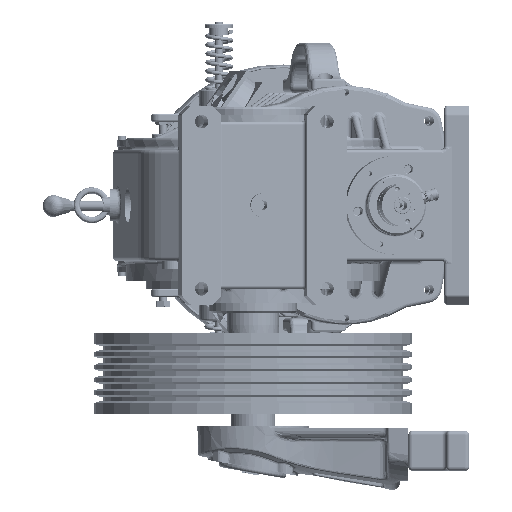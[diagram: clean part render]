
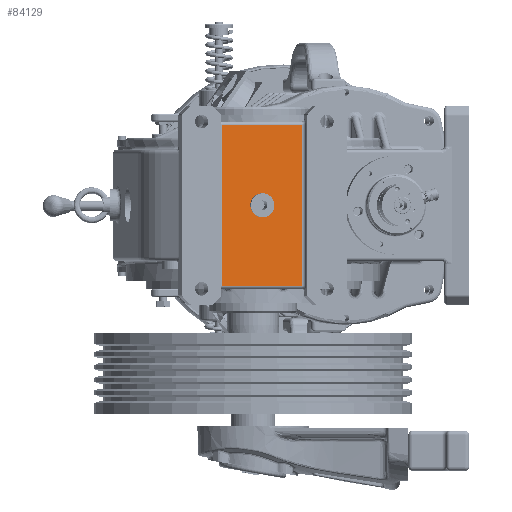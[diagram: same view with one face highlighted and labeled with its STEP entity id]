
A CAD part, front view. The second image highlights one B-rep face of the part: STEP entity #84129.
In plain terms, the highlighted planar face has unit normal (0.174, -0.985, 0).
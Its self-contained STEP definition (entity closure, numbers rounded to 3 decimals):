
#7739 = CARTESIAN_POINT ( 'NONE',  ( -104.187, -322.315, 164.748 ) ) ;
#8836 = AXIS2_PLACEMENT_3D ( 'NONE', #160711, #79673, #222510 ) ;
#9449 = DIRECTION ( 'NONE',  ( 0.985, 0.174, 0. ) ) ;
#17745 = AXIS2_PLACEMENT_3D ( 'NONE', #229561, #89260, #9449 ) ;
#19550 = LINE ( 'NONE', #251311, #49238 ) ;
#19821 = VECTOR ( 'NONE', #94411, 1000. ) ;
#29827 = VERTEX_POINT ( 'NONE', #238288 ) ;
#30314 = ORIENTED_EDGE ( 'NONE', *, *, #159987, .F. ) ;
#36957 = EDGE_CURVE ( 'NONE', #134850, #217274, #225337, .T. ) ;
#41774 = AXIS2_PLACEMENT_3D ( 'NONE', #117575, #216708, #63392 ) ;
#49238 = VECTOR ( 'NONE', #135389, 1000. ) ;
#49504 = VERTEX_POINT ( 'NONE', #189189 ) ;
#61983 = VERTEX_POINT ( 'NONE', #184676 ) ;
#63392 = DIRECTION ( 'NONE',  ( 0.985, 0.174, 0. ) ) ;
#73402 = ORIENTED_EDGE ( 'NONE', *, *, #36957, .T. ) ;
#73984 = ORIENTED_EDGE ( 'NONE', *, *, #227799, .T. ) ;
#74740 = CARTESIAN_POINT ( 'NONE',  ( -138.655, -328.393, 63.748 ) ) ;
#75106 = CARTESIAN_POINT ( 'NONE',  ( -104.187, -322.315, -37.252 ) ) ;
#79673 = DIRECTION ( 'NONE',  ( 0.174, -0.985, 0. ) ) ;
#81426 = EDGE_LOOP ( 'NONE', ( #30314, #95625 ) ) ;
#84129 = ADVANCED_FACE ( 'NONE', ( #129151, #93044 ), #148453, .T. ) ;
#89260 = DIRECTION ( 'NONE',  ( 0.174, -0.985, 0. ) ) ;
#93044 = FACE_OUTER_BOUND ( 'NONE', #168437, .T. ) ;
#94411 = DIRECTION ( 'NONE',  ( 0.985, 0.174, 0. ) ) ;
#95625 = ORIENTED_EDGE ( 'NONE', *, *, #168467, .F. ) ;
#104533 = EDGE_CURVE ( 'NONE', #217274, #61983, #155217, .T. ) ;
#115021 = LINE ( 'NONE', #75106, #19821 ) ;
#117575 = CARTESIAN_POINT ( 'NONE',  ( -123.883, -325.788, 63.748 ) ) ;
#129151 = FACE_BOUND ( 'NONE', #81426, .T. ) ;
#134850 = VERTEX_POINT ( 'NONE', #138851 ) ;
#135389 = DIRECTION ( 'NONE',  ( 0., 0., 1. ) ) ;
#138851 = CARTESIAN_POINT ( 'NONE',  ( -73.658, -316.932, 164.748 ) ) ;
#148453 = PLANE ( 'NONE',  #17745 ) ;
#150248 = VECTOR ( 'NONE', #247161, 1000. ) ;
#155217 = LINE ( 'NONE', #160260, #165986 ) ;
#159987 = EDGE_CURVE ( 'NONE', #198352, #49504, #235174, .T. ) ;
#160260 = CARTESIAN_POINT ( 'NONE',  ( -174.108, -334.644, -37.252 ) ) ;
#160711 = CARTESIAN_POINT ( 'NONE',  ( -123.883, -325.788, 63.748 ) ) ;
#164607 = ORIENTED_EDGE ( 'NONE', *, *, #254533, .T. ) ;
#165986 = VECTOR ( 'NONE', #195159, 1000. ) ;
#168437 = EDGE_LOOP ( 'NONE', ( #73402, #174051, #164607, #73984 ) ) ;
#168467 = EDGE_CURVE ( 'NONE', #49504, #198352, #193770, .T. ) ;
#174051 = ORIENTED_EDGE ( 'NONE', *, *, #104533, .T. ) ;
#184676 = CARTESIAN_POINT ( 'NONE',  ( -174.108, -334.644, -37.252 ) ) ;
#189189 = CARTESIAN_POINT ( 'NONE',  ( -109.111, -323.184, 63.748 ) ) ;
#193770 = CIRCLE ( 'NONE', #8836, 15. ) ;
#195159 = DIRECTION ( 'NONE',  ( 0., 0., -1. ) ) ;
#198352 = VERTEX_POINT ( 'NONE', #74740 ) ;
#212131 = CARTESIAN_POINT ( 'NONE',  ( -174.108, -334.644, 164.748 ) ) ;
#216708 = DIRECTION ( 'NONE',  ( 0.174, -0.985, 0. ) ) ;
#217274 = VERTEX_POINT ( 'NONE', #212131 ) ;
#222510 = DIRECTION ( 'NONE',  ( 0.985, 0.174, 0. ) ) ;
#225337 = LINE ( 'NONE', #7739, #150248 ) ;
#227799 = EDGE_CURVE ( 'NONE', #29827, #134850, #19550, .T. ) ;
#229561 = CARTESIAN_POINT ( 'NONE',  ( -104.187, -322.315, -6.252 ) ) ;
#235174 = CIRCLE ( 'NONE', #41774, 15. ) ;
#238288 = CARTESIAN_POINT ( 'NONE',  ( -73.658, -316.932, -37.252 ) ) ;
#247161 = DIRECTION ( 'NONE',  ( -0.985, -0.174, 0. ) ) ;
#251311 = CARTESIAN_POINT ( 'NONE',  ( -73.658, -316.932, 164.748 ) ) ;
#254533 = EDGE_CURVE ( 'NONE', #61983, #29827, #115021, .T. ) ;
